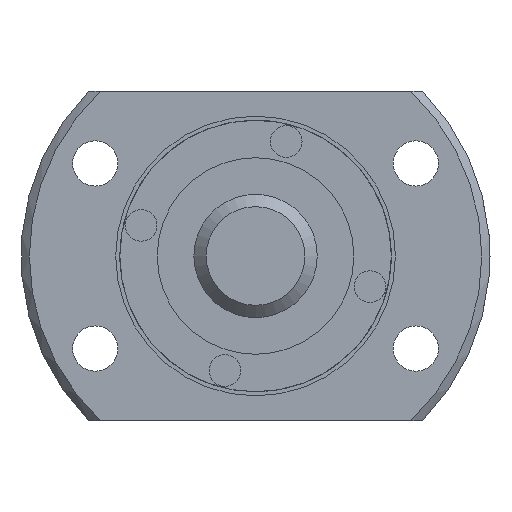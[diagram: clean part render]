
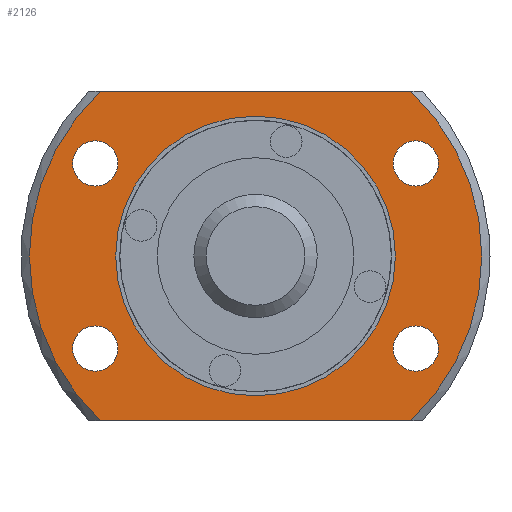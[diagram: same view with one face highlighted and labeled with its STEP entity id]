
A CAD part, left-side view. The second image highlights one B-rep face of the part: STEP entity #2126.
In plain terms, the highlighted planar face has unit normal (-1, 0, 0).
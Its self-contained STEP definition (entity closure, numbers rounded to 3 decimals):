
#81=LINE('',#3591,#201);
#82=LINE('',#3592,#202);
#201=VECTOR('',#2727,1000.);
#202=VECTOR('',#2728,1000.);
#481=ORIENTED_EDGE('',*,*,#1020,.T.);
#482=ORIENTED_EDGE('',*,*,#1021,.F.);
#483=ORIENTED_EDGE('',*,*,#999,.F.);
#484=ORIENTED_EDGE('',*,*,#1022,.F.);
#485=ORIENTED_EDGE('',*,*,#1018,.F.);
#486=ORIENTED_EDGE('',*,*,#1023,.T.);
#487=ORIENTED_EDGE('',*,*,#1024,.T.);
#488=ORIENTED_EDGE('',*,*,#1025,.T.);
#489=ORIENTED_EDGE('',*,*,#1026,.T.);
#999=EDGE_CURVE('',#1272,#1271,#1432,.T.);
#1018=EDGE_CURVE('',#1287,#1288,#1446,.T.);
#1020=EDGE_CURVE('',#1289,#1289,#1447,.T.);
#1021=EDGE_CURVE('',#1271,#1287,#81,.T.);
#1022=EDGE_CURVE('',#1288,#1272,#82,.T.);
#1023=EDGE_CURVE('',#1290,#1290,#1448,.T.);
#1024=EDGE_CURVE('',#1291,#1291,#1449,.T.);
#1025=EDGE_CURVE('',#1292,#1292,#1450,.T.);
#1026=EDGE_CURVE('',#1293,#1293,#1451,.T.);
#1271=VERTEX_POINT('',#3524);
#1272=VERTEX_POINT('',#3529);
#1287=VERTEX_POINT('',#3581);
#1288=VERTEX_POINT('',#3583);
#1289=VERTEX_POINT('',#3590);
#1290=VERTEX_POINT('',#3594);
#1291=VERTEX_POINT('',#3596);
#1292=VERTEX_POINT('',#3598);
#1293=VERTEX_POINT('',#3600);
#1432=CIRCLE('',#2324,27.5);
#1446=CIRCLE('',#2347,27.5);
#1447=CIRCLE('',#2349,17.);
#1448=CIRCLE('',#2350,2.75);
#1449=CIRCLE('',#2351,2.75);
#1450=CIRCLE('',#2352,2.75);
#1451=CIRCLE('',#2353,2.75);
#1579=EDGE_LOOP('',(#481));
#1580=EDGE_LOOP('',(#482,#483,#484,#485));
#1581=EDGE_LOOP('',(#486));
#1582=EDGE_LOOP('',(#487));
#1583=EDGE_LOOP('',(#488));
#1584=EDGE_LOOP('',(#489));
#1813=FACE_BOUND('',#1579,.T.);
#1814=FACE_BOUND('',#1580,.T.);
#1815=FACE_BOUND('',#1581,.T.);
#1816=FACE_BOUND('',#1582,.T.);
#1817=FACE_BOUND('',#1583,.T.);
#1818=FACE_BOUND('',#1584,.T.);
#2013=PLANE('',#2348);
#2126=ADVANCED_FACE('',(#1813,#1814,#1815,#1816,#1817,#1818),#2013,.T.);
#2324=AXIS2_PLACEMENT_3D('',#3530,#2673,#2674);
#2347=AXIS2_PLACEMENT_3D('',#3582,#2721,#2722);
#2348=AXIS2_PLACEMENT_3D('',#3588,#2723,#2724);
#2349=AXIS2_PLACEMENT_3D('',#3589,#2725,#2726);
#2350=AXIS2_PLACEMENT_3D('',#3593,#2729,#2730);
#2351=AXIS2_PLACEMENT_3D('',#3595,#2731,#2732);
#2352=AXIS2_PLACEMENT_3D('',#3597,#2733,#2734);
#2353=AXIS2_PLACEMENT_3D('',#3599,#2735,#2736);
#2673=DIRECTION('',(1.,0.,0.));
#2674=DIRECTION('',(0.,0.,-1.));
#2721=DIRECTION('',(1.,0.,0.));
#2722=DIRECTION('',(0.,0.,-1.));
#2723=DIRECTION('',(-1.,0.,0.));
#2724=DIRECTION('',(0.,0.,1.));
#2725=DIRECTION('',(1.,0.,0.));
#2726=DIRECTION('',(0.,0.,-1.));
#2727=DIRECTION('',(0.,1.,0.));
#2728=DIRECTION('',(0.,-1.,0.));
#2729=DIRECTION('',(1.,0.,0.));
#2730=DIRECTION('',(0.,0.,-1.));
#2731=DIRECTION('',(1.,0.,0.));
#2732=DIRECTION('',(0.,0.,-1.));
#2733=DIRECTION('',(1.,0.,0.));
#2734=DIRECTION('',(0.,0.,-1.));
#2735=DIRECTION('',(1.,0.,0.));
#2736=DIRECTION('',(0.,0.,-1.));
#3524=CARTESIAN_POINT('',(10.,-18.875,-20.));
#3529=CARTESIAN_POINT('',(10.,-18.875,20.));
#3530=CARTESIAN_POINT('',(10.,0.,0.));
#3581=CARTESIAN_POINT('',(10.,18.875,-20.));
#3582=CARTESIAN_POINT('',(10.,0.,0.));
#3583=CARTESIAN_POINT('',(10.,18.875,20.));
#3588=CARTESIAN_POINT('',(10.,27.5,0.));
#3589=CARTESIAN_POINT('',(10.,0.,0.));
#3590=CARTESIAN_POINT('',(10.,0.,-17.));
#3591=CARTESIAN_POINT('',(10.,27.5,-20.));
#3592=CARTESIAN_POINT('',(10.,27.5,20.));
#3593=CARTESIAN_POINT('',(10.,19.486,-11.25));
#3594=CARTESIAN_POINT('',(10.,19.486,-14.));
#3595=CARTESIAN_POINT('',(10.,-19.486,11.25));
#3596=CARTESIAN_POINT('',(10.,-19.486,8.5));
#3597=CARTESIAN_POINT('',(10.,-19.486,-11.25));
#3598=CARTESIAN_POINT('',(10.,-19.486,-14.));
#3599=CARTESIAN_POINT('',(10.,19.486,11.25));
#3600=CARTESIAN_POINT('',(10.,19.486,8.5));
